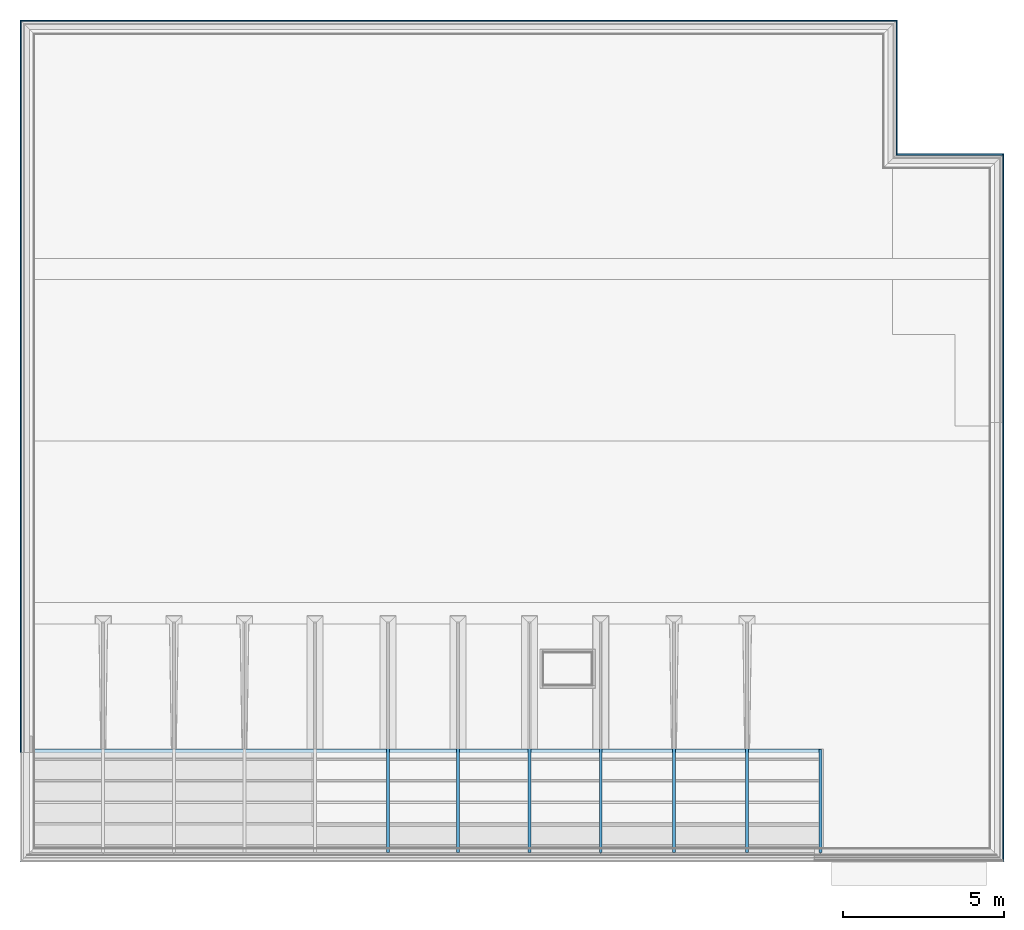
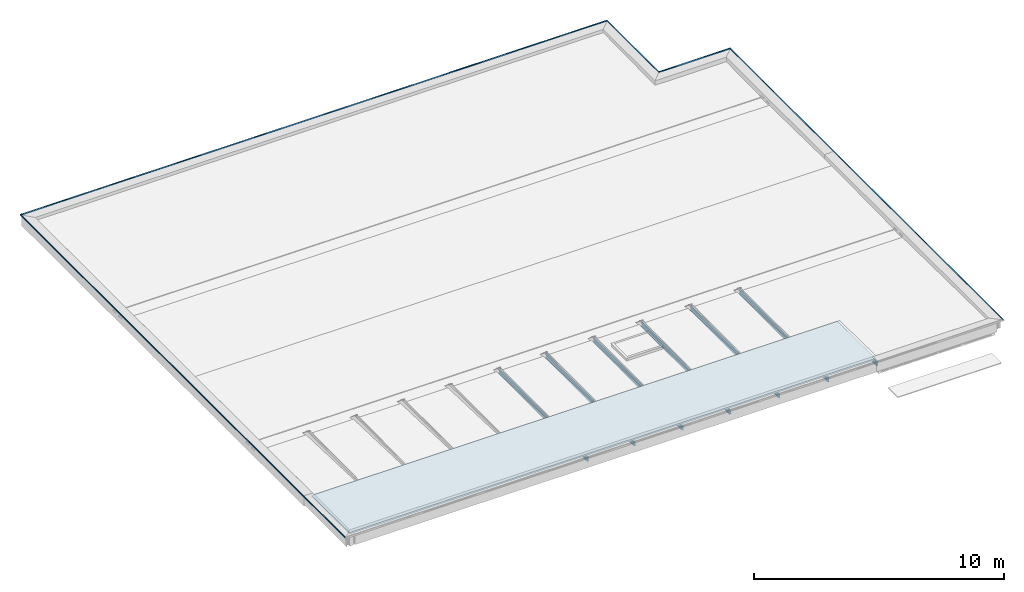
# One storey, part 4 of 16: 12 beams, 1 slab.
"""IFC2X3 building model written with IfcOpenShell, lengths in millimetres."""

import ifcopenshell
import ifcopenshell.guid

model = None  # the IFC model being written
_history = None  # IfcOwnerHistory: only IFC2X3 demands one
_inside = {}  # id of a spatial element -> (the spatial element, [elements in it])
_under = {}  # id of a project, library or spatial element -> (it, [spatial elements below it])
_declared = {}  # id of a project -> (the project, [libraries it declares])
_typed = {}  # id of a type object -> (the type object, [elements of that type])
_made_of = {}  # id of a material, layer set ... -> (it, [elements and type objects made of it])


def new_model(schema):
    """Start an empty IFC model of exactly this schema.

    Asked for "IFC4X3", IfcOpenShell would pick the latest addendum, in which some entities
    have other attributes; the version numbers below select the first issue.
    IFC2X3 requires an IfcOwnerHistory on every rooted entity: one is made here for all.
    """
    global model, _history
    if schema == "IFC4X3":
        model = ifcopenshell.file(schema_version=(4, 3, 0, 0))
    else:
        model = ifcopenshell.file(schema=schema)
    _inside.clear()
    _under.clear()
    _declared.clear()
    _typed.clear()
    _made_of.clear()
    _history = None
    if model.schema == "IFC2X3":
        org = make("IfcOrganization", Name="unknown")
        user = make(
            "IfcPersonAndOrganization",
            ThePerson=make("IfcPerson", FamilyName="unknown"),
            TheOrganization=org,
        )
        app = make(
            "IfcApplication",
            ApplicationDeveloper=org,
            Version="unknown",
            ApplicationFullName="unknown",
            ApplicationIdentifier="unknown",
        )
        _history = make(
            "IfcOwnerHistory",
            OwningUser=user,
            OwningApplication=app,
            ChangeAction="ADDED",
            CreationDate=0,
        )
    return model


def make(cls, **values):
    """One entity of the class cls with the attributes given. An attribute that is None is left unset."""
    return model.create_entity(
        cls, **{name: value for name, value in values.items() if value is not None}
    )


def entity(cls, *values):
    """Any entity or typed value of the class cls, its attributes in the order of the schema. None: left unset."""
    e = model.create_entity(cls)
    for i, value in enumerate(values):
        if value is not None:
            e[i] = value
    return e


def rooted(cls, **values):
    """An entity with a GlobalId (a new one), such as an element, a storey or a relation."""
    return make(cls, GlobalId=ifcopenshell.guid.new(), OwnerHistory=_history, **values)


def si_unit(unit_type, name, prefix=None):
    """IfcSIUnit, for example si_unit("LENGTHUNIT", "METRE", prefix="MILLI")."""
    return make("IfcSIUnit", UnitType=unit_type, Prefix=prefix, Name=name)


def converted_unit(unit_type, name, factor, base, dimensions=None, offset=None):
    """IfcConversionBasedUnit, such as the inch: factor (a typed value) times the base unit."""
    return make(
        "IfcConversionBasedUnit"
        if offset is None
        else "IfcConversionBasedUnitWithOffset",
        ConversionOffset=offset,
        Dimensions=None
        if dimensions is None
        else entity("IfcDimensionalExponents", *dimensions),
        UnitType=unit_type,
        Name=name,
        ConversionFactor=make(
            "IfcMeasureWithUnit", ValueComponent=factor, UnitComponent=base
        ),
    )


def derived_unit(unit_type, elements):
    """IfcDerivedUnit: a product of units, each with its exponent."""
    return make(
        "IfcDerivedUnit",
        Elements=[
            make("IfcDerivedUnitElement", Unit=unit, Exponent=power)
            for unit, power in elements
        ],
        UnitType=unit_type,
    )


def money_unit(currency):
    """IfcMonetaryUnit."""
    return make("IfcMonetaryUnit", Currency=currency)


def assignment(units):
    """IfcUnitAssignment: the units of a project."""
    return None if units is None else make("IfcUnitAssignment", Units=units)


def point(xyz):
    """IfcCartesianPoint."""
    return None if xyz is None else make("IfcCartesianPoint", Coordinates=xyz)


def direction(xyz):
    """IfcDirection."""
    return None if xyz is None else make("IfcDirection", DirectionRatios=xyz)


def frame(location, z_axis=None, x_axis=None):
    """IfcAxis2Placement3D, a coordinate frame: its origin and axes. An axis left out is left unset."""
    return make(
        "IfcAxis2Placement3D",
        Location=point(location),
        Axis=direction(z_axis),
        RefDirection=direction(x_axis),
    )


def origin_with_axes():
    """The frame at (0, 0, 0) with the z axis (0, 0, 1) and the x axis (1, 0, 0) written out."""
    return frame((0.0, 0.0, 0.0), z_axis=(0.0, 0.0, 1.0), x_axis=(1.0, 0.0, 0.0))


def place(relative_to, where):
    """IfcLocalPlacement: puts the frame where relative to a parent placement (None: the world)."""
    return make(
        "IfcLocalPlacement", PlacementRelTo=relative_to, RelativePlacement=where
    )


def context(
    kind, dimensions, precision=None, world=None, true_north=None, identifier=None
):
    """IfcGeometricRepresentationContext, for example the 3D "Model" context."""
    return make(
        "IfcGeometricRepresentationContext",
        ContextIdentifier=identifier,
        ContextType=kind,
        CoordinateSpaceDimension=dimensions,
        Precision=precision,
        WorldCoordinateSystem=world,
        TrueNorth=true_north,
    )


def subcontext(parent, identifier, kind, view, scale=None):
    """IfcGeometricRepresentationSubContext, for example "Body" below "Model"."""
    return make(
        "IfcGeometricRepresentationSubContext",
        ContextIdentifier=identifier,
        ContextType=kind,
        ParentContext=parent,
        TargetScale=scale,
        TargetView=view,
    )


def project(units=None, contexts=None):
    """IfcProject with its units and contexts."""
    return rooted(
        "IfcProject",
        Name="project",
        RepresentationContexts=contexts,
        UnitsInContext=assignment(units),
    )


def spatial(cls, under=None, at=None, **own):
    """A site, building, storey or space (cls), placed at a placement, below another one or the project."""
    s = rooted(cls, ObjectPlacement=at, **own)
    if under is not None:
        _under.setdefault(under.id(), (under, []))[1].append(s)
    return s


def faces_of(points, faces, orient=None, outer=None):
    """IfcFace entities. A face is a list of loops; a loop is a list of indices into points, from 0.

    orient and outer hold one flag for each loop. By default every Orientation is true, the
    first loop of a face is its IfcFaceOuterBound and the others are IfcFaceBound.
    """
    made = []
    for i, loops in enumerate(faces):
        bounds = []
        for j, loop in enumerate(loops):
            is_outer = j == 0 if outer is None else outer[i][j]
            bounds.append(
                make(
                    "IfcFaceOuterBound" if is_outer else "IfcFaceBound",
                    Bound=make("IfcPolyLoop", Polygon=[points[k] for k in loop]),
                    Orientation=True if orient is None else orient[i][j],
                )
            )
        made.append(make("IfcFace", Bounds=bounds))
    return made


def faceted_brep(points, faces, orient=None, outer=None, voids=None):
    """IfcFacetedBrep: a solid bounded by flat faces; with voids (closed shells), ...WithVoids."""
    shared = [point(p) for p in points]
    hull = make("IfcClosedShell", CfsFaces=faces_of(shared, faces, orient, outer))
    if voids is None:
        return make("IfcFacetedBrep", Outer=hull)
    return make(
        "IfcFacetedBrepWithVoids",
        Outer=hull,
        Voids=[
            make(cls, CfsFaces=faces_of(shared, fs, o, b)) for cls, fs, o, b in voids
        ],
    )


def shape(context_of_items, identifier, shape_type, items):
    """IfcShapeRepresentation: the items that make up one representation, for example the "Body"."""
    return make(
        "IfcShapeRepresentation",
        ContextOfItems=context_of_items,
        RepresentationIdentifier=identifier,
        RepresentationType=shape_type,
        Items=items,
    )


def material(Name=None, Category=None):
    """IfcMaterial."""
    return make("IfcMaterial", Name=Name, Category=Category)


def made_of(thing, what):
    """Note that an element or type object is made of a material, layer set ...; save() writes the relation."""
    if what is not None:
        _made_of.setdefault(what.id(), (what, []))[1].append(thing)
    return thing


def type_object(cls, material=None, **own):
    """A type object (cls), such as IfcWallType, which elements share."""
    return made_of(rooted(cls, **own), material)


def element(
    cls,
    number,
    at=None,
    inside=None,
    cuts=None,
    type_object=None,
    material=None,
    context=None,
    identifier="Body",
    shape_type=None,
    held_by="IfcProductDefinitionShape",
    body=None,
    shapes=None,
    **own,
):
    """One element of the class cls, such as IfcWall. Its Tag is "e" and its number.

    at: its placement. inside: the storey or other place that contains it. cuts: it is an
    opening in that element (IfcRelVoidsElement). A single representation is given by context,
    identifier, shape_type and body (its items); several are given by shapes. held_by: the class
    of the entity that holds the representations. save() writes the other relations.
    """
    e = rooted(cls, Tag="e%d" % number, ObjectPlacement=at, **own)
    if body is not None:
        shapes = [shape(context, identifier, shape_type, body)]
    if shapes is not None:
        e.Representation = make(held_by, Representations=shapes)
    if inside is not None:
        _inside.setdefault(inside.id(), (inside, []))[1].append(e)
    if cuts is not None:
        rooted(
            "IfcRelVoidsElement", RelatingBuildingElement=cuts, RelatedOpeningElement=e
        )
    if type_object is not None:
        _typed.setdefault(type_object.id(), (type_object, []))[1].append(e)
    return made_of(e, material)


def aggregate(whole, parts):
    """IfcRelAggregates: a whole, such as a stair, and the parts it consists of."""
    return rooted("IfcRelAggregates", RelatingObject=whole, RelatedObjects=parts)


def save(model, path):
    """Write the relations noted so far, then the file.

    IfcRelAggregates (storeys below a building ...), IfcRelContainedInSpatialStructure (elements
    in a storey), IfcRelDefinesByType, IfcRelAssociatesMaterial and IfcRelDeclares: one each for
    every whole, place, type object, material and project.
    """
    for whole, parts in _under.values():
        aggregate(whole, parts)
    for where, things in _inside.values():
        rooted(
            "IfcRelContainedInSpatialStructure",
            RelatedElements=things,
            RelatingStructure=where,
        )
    for kind, things in _typed.values():
        rooted("IfcRelDefinesByType", RelatedObjects=things, RelatingType=kind)
    for what, things in _made_of.values():
        rooted("IfcRelAssociatesMaterial", RelatedObjects=things, RelatingMaterial=what)
    for by, libraries in _declared.values():
        rooted("IfcRelDeclares", RelatingContext=by, RelatedDefinitions=libraries)
    model.write(path)


model = new_model("IFC2X3")

# Units and contexts
model_context = context("Model", 3, precision=0.01, world=origin_with_axes(), true_north=direction((0.0, 1.0)))
body_context = subcontext(model_context, "Body", "Model", "MODEL_VIEW")
ifc_project = project(units=[si_unit("LENGTHUNIT", "METRE", prefix="MILLI"), si_unit("AREAUNIT", "SQUARE_METRE"), si_unit("VOLUMEUNIT", "CUBIC_METRE"), converted_unit("PLANEANGLEUNIT", "DEGREE", entity("IfcPlaneAngleMeasure", 0.0174532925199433), si_unit("PLANEANGLEUNIT", "RADIAN"), dimensions=[0, 0, 0, 0, 0, 0, 0]), money_unit("EUR"), converted_unit("TIMEUNIT", "Year", entity("IfcTimeMeasure", 31556926.0), si_unit("TIMEUNIT", "SECOND"), dimensions=[0, 0, 1, 0, 0, 0, 0]), si_unit("MASSUNIT", "GRAM", prefix="KILO"), si_unit("THERMODYNAMICTEMPERATUREUNIT", "DEGREE_CELSIUS"), si_unit("LUMINOUSINTENSITYUNIT", "LUMEN"), si_unit("ENERGYUNIT", "JOULE", prefix="MEGA"), derived_unit("THERMALCONDUCTANCEUNIT", [(si_unit("POWERUNIT", "WATT"), 1), (si_unit("LENGTHUNIT", "METRE"), -1), (si_unit("THERMODYNAMICTEMPERATUREUNIT", "KELVIN"), -1)]), derived_unit("SPECIFICHEATCAPACITYUNIT", [(si_unit("ENERGYUNIT", "JOULE"), 1), (si_unit("MASSUNIT", "GRAM", prefix="KILO"), -1), (si_unit("THERMODYNAMICTEMPERATUREUNIT", "KELVIN"), -1)]), derived_unit("MASSDENSITYUNIT", [(si_unit("MASSUNIT", "GRAM", prefix="KILO"), 1), (si_unit("VOLUMEUNIT", "CUBIC_METRE"), -1)])], contexts=[model_context])

# Site, building, storey
site_placement = place(None, origin_with_axes())
site = spatial("IfcSite", under=ifc_project, at=site_placement, Name="Site", CompositionType="ELEMENT")
building_placement = place(site_placement, origin_with_axes())
building = spatial("IfcBuilding", under=site, at=building_placement, Name="Naam gebouw", CompositionType="ELEMENT")
storey_placement = place(building_placement, frame((0.0, 0.0, 7820.0), z_axis=(0.0, 0.0, 1.0), x_axis=(1.0, 0.0, 0.0)))
storey = spatial("IfcBuildingStorey", under=building, at=storey_placement, Name="2e dakoverzicht", CompositionType="ELEMENT", Elevation=7820.0)

# Beams
ifc_material_1 = material(Name="Metaal - Aluminium")
beam_type_1 = type_object("IfcBeamType", Name="47 Daktrim 45 x 45", PredefinedType="BEAM")
beam_1_placement = place(storey_placement, frame((-290.000000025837, 29465.0, 525.0000000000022), z_axis=(0.0, 0.0, 1.0), x_axis=(0.0, -1.0, 0.0)))
element("IfcBeam", 1, at=beam_1_placement, inside=storey, type_object=beam_type_1, material=ifc_material_1, Name="28_Balk-x", ObjectType="BEAM", context=body_context, shape_type="Brep", body=[
    faceted_brep([(0.0, 0.0, 0.0), (0.0, 27180.00000002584, 0.0), (0.0, 27180.00000002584, -44.99999999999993), (0.0, 0.0, -44.99999999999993), (10.00000000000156, 10.0000000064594, 0.0), (9.99999999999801, 27170.00000002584, 0.0), (9.99999999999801, 27170.00000002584, -3.000000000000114), (3.000000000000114, 27177.00000002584, -3.000000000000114), (3.000000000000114, 27177.00000002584, -13.51955345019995), (45.00010525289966, 27134.99989477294, -13.51955345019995), (45.00010525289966, 27134.99989477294, -16.51955345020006), (3.000000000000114, 27177.00000002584, -16.51955345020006), (3.000000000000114, 27177.00000002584, -41.99999999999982), (9.99999999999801, 27170.00000002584, -41.99999999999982), (9.99999999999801, 27170.00000002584, -44.99999999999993), (10.00000000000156, 10.0000000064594, -44.99999999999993), (10.00000000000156, 10.0000000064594, -41.99999999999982), (3.000000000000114, 3.00000000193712, -41.99999999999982), (3.000000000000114, 3.00000000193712, -16.51955345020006), (45.00010525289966, 45.00010528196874, -16.51955345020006), (45.00010525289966, 45.00010528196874, -13.51955345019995), (3.000000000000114, 3.00000000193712, -13.51955345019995), (3.000000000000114, 3.00000000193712, -3.000000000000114), (10.00000000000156, 10.0000000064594, -3.000000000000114)], [[[0, 1, 2, 3]], [[4, 5, 1, 0]], [[2, 1, 5, 6, 7, 8, 9, 10, 11, 12, 13, 14]], [[3, 2, 14, 15]], [[4, 0, 3, 15, 16, 17, 18, 19, 20, 21, 22, 23]], [[23, 6, 5, 4]], [[22, 7, 6, 23]], [[21, 8, 7, 22]], [[20, 9, 8, 21]], [[19, 10, 9, 20]], [[18, 11, 10, 19]], [[17, 12, 11, 18]], [[16, 13, 12, 17]], [[15, 14, 13, 16]]]),
])
beam_2_placement = place(storey_placement, frame((-289.9999831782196, 3384.000000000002, 525.0000000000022), z_axis=(0.0, 0.0, 1.0), x_axis=(1.0, 6.459728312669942e-10, 0.0)))
element("IfcBeam", 2, at=beam_2_placement, inside=storey, type_object=beam_type_1, material=ifc_material_1, Name="28_Balk-x", ObjectType="BEAM", context=body_context, shape_type="Brep", body=[
    faceted_brep([(0.0, 0.0, 0.0), (0.0, 26080.99999999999, 0.0), (0.0, 26080.99999999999, -44.99999999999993), (0.0, 0.0, -44.99999999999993), (10.00000000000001, 9.999999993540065, 0.0), (10.00000000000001, 26070.99999999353, 0.0), (10.00000000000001, 26070.99999999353, -3.000000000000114), (3.000000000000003, 26077.99999999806, -3.000000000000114), (3.000000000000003, 26077.99999999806, -13.51955345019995), (45.00010525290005, 26035.99989471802, -13.51955345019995), (45.00010525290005, 26035.99989471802, -16.51955345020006), (3.000000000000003, 26077.99999999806, -16.51955345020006), (3.000000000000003, 26077.99999999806, -41.99999999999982), (10.00000000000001, 26070.99999999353, -41.99999999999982), (10.00000000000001, 26070.99999999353, -44.99999999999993), (10.00000000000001, 9.999999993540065, -44.99999999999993), (10.00000000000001, 9.999999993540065, -41.99999999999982), (3.000000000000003, 2.999999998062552, -41.99999999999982), (3.000000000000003, 2.999999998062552, -16.51955345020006), (45.00010525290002, 45.00010522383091, -16.51955345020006), (45.00010525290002, 45.00010522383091, -13.51955345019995), (3.000000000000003, 2.999999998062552, -13.51955345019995), (3.000000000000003, 2.999999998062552, -3.000000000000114), (10.00000000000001, 9.999999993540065, -3.000000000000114)], [[[0, 1, 2, 3]], [[4, 5, 1, 0]], [[2, 1, 5, 6, 7, 8, 9, 10, 11, 12, 13, 14]], [[3, 2, 14, 15]], [[4, 0, 3, 15, 16, 17, 18, 19, 20, 21, 22, 23]], [[23, 6, 5, 4]], [[22, 7, 6, 23]], [[21, 8, 7, 22]], [[20, 9, 8, 21]], [[19, 10, 9, 20]], [[18, 11, 10, 19]], [[17, 12, 11, 18]], [[16, 13, 12, 17]], [[15, 14, 13, 16]]]),
])
beam_3_placement = place(storey_placement, frame((30189.99999999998, 25314.97621976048, 525.0000000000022), z_axis=(0.0, 0.0, 1.0), x_axis=(-1.0, 0.0, 0.0)))
element("IfcBeam", 3, at=beam_3_placement, inside=storey, type_object=beam_type_1, material=ifc_material_1, Name="28_Balk-x", ObjectType="BEAM", context=body_context, shape_type="Brep", body=[
    faceted_brep([(0.0, 0.0, 0.0), (0.0, 21930.97621976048, 0.0), (0.0, 21930.97621976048, -44.99999999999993), (0.0, 0.0, -44.99999999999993), (10.00000000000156, 10.00000000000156, 0.0), (10.00000000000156, 21920.97621976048, 0.0), (10.00000000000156, 21920.97621976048, -3.000000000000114), (3.000000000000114, 21927.97621976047, -3.000000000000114), (3.000000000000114, 21927.97621976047, -13.51955345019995), (45.00010525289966, 21885.97611450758, -13.51955345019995), (45.00010525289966, 21885.97611450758, -16.51955345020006), (3.000000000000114, 21927.97621976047, -16.51955345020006), (3.000000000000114, 21927.97621976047, -41.99999999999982), (10.00000000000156, 21920.97621976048, -41.99999999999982), (10.00000000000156, 21920.97621976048, -44.99999999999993), (10.00000000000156, 10.00000000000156, -44.99999999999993), (10.00000000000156, 10.00000000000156, -41.99999999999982), (3.000000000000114, 3.000000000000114, -41.99999999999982), (3.000000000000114, 3.000000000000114, -16.51955345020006), (45.00010525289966, 45.00010525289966, -16.51955345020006), (45.00010525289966, 45.00010525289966, -13.51955345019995), (3.000000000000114, 3.000000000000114, -13.51955345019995), (3.000000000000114, 3.000000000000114, -3.000000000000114), (10.00000000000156, 10.00000000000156, -3.000000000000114)], [[[0, 1, 2, 3]], [[4, 5, 1, 0]], [[2, 1, 5, 6, 7, 8, 9, 10, 11, 12, 13, 14]], [[3, 2, 14, 15]], [[4, 0, 3, 15, 16, 17, 18, 19, 20, 21, 22, 23]], [[23, 6, 5, 4]], [[22, 7, 6, 23]], [[21, 8, 7, 22]], [[20, 9, 8, 21]], [[19, 10, 9, 20]], [[18, 11, 10, 19]], [[17, 12, 11, 18]], [[16, 13, 12, 17]], [[15, 14, 13, 16]]]),
])
beam_4_placement = place(storey_placement, frame((26890.0, 25314.97621976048, 525.0000000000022), z_axis=(0.0, 0.0, 1.0), x_axis=(0.0, -1.0, 0.0)))
element("IfcBeam", 4, at=beam_4_placement, inside=storey, type_object=beam_type_1, material=ifc_material_1, Name="28_Balk-x", ObjectType="BEAM", context=body_context, shape_type="Brep", body=[
    faceted_brep([(0.0, 0.0, 0.0), (0.0, 3299.99999999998, 0.0), (0.0, 3299.99999999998, -44.99999999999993), (0.0, 0.0, -44.99999999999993), (10.00000000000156, -10.00000000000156, 0.0), (10.00000000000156, 3289.999999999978, 0.0), (10.00000000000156, 3289.999999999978, -3.000000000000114), (3.000000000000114, 3296.999999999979, -3.000000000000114), (3.000000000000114, 3296.999999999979, -13.51955345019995), (45.00010525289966, 3254.99989474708, -13.51955345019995), (45.00010525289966, 3254.99989474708, -16.51955345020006), (3.000000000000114, 3296.999999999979, -16.51955345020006), (3.000000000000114, 3296.999999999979, -41.99999999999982), (10.00000000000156, 3289.999999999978, -41.99999999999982), (10.00000000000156, 3289.999999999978, -44.99999999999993), (10.00000000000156, -10.00000000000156, -44.99999999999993), (10.00000000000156, -10.00000000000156, -41.99999999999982), (3.000000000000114, -3.000000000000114, -41.99999999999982), (3.000000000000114, -3.000000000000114, -16.51955345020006), (45.00010525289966, -45.00010525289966, -16.51955345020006), (45.00010525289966, -45.00010525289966, -13.51955345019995), (3.000000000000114, -3.000000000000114, -13.51955345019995), (3.000000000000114, -3.000000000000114, -3.000000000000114), (10.00000000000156, -10.00000000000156, -3.000000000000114)], [[[0, 1, 2, 3]], [[4, 5, 1, 0]], [[2, 1, 5, 6, 7, 8, 9, 10, 11, 12, 13, 14]], [[3, 2, 14, 15]], [[4, 0, 3, 15, 16, 17, 18, 19, 20, 21, 22, 23]], [[23, 6, 5, 4]], [[22, 7, 6, 23]], [[21, 8, 7, 22]], [[20, 9, 8, 21]], [[19, 10, 9, 20]], [[18, 11, 10, 19]], [[17, 12, 11, 18]], [[16, 13, 12, 17]], [[15, 14, 13, 16]]]),
])
beam_5_placement = place(storey_placement, frame((26890.0, 29465.0, 525.0000000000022), z_axis=(0.0, 0.0, 1.0), x_axis=(-1.0, 0.0, 0.0)))
element("IfcBeam", 5, at=beam_5_placement, inside=storey, type_object=beam_type_1, material=ifc_material_1, Name="28_Balk-x", ObjectType="BEAM", context=body_context, shape_type="Brep", body=[
    faceted_brep([(0.0, 0.0, 0.0), (0.0, 4150.023780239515, 0.0), (0.0, 4150.023780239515, -44.99999999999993), (0.0, 0.0, -44.99999999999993), (10.00000000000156, 10.00000000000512, 0.0), (9.99999999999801, 4160.023780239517, 0.0), (9.99999999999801, 4160.023780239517, -3.000000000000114), (3.000000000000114, 4153.023780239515, -3.000000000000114), (3.000000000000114, 4153.023780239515, -13.51955345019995), (45.00010525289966, 4195.023885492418, -13.51955345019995), (45.00010525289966, 4195.023885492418, -16.51955345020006), (3.000000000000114, 4153.023780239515, -16.51955345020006), (3.000000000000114, 4153.023780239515, -41.99999999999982), (9.99999999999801, 4160.023780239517, -41.99999999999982), (9.99999999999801, 4160.023780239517, -44.99999999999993), (10.00000000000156, 10.00000000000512, -44.99999999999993), (10.00000000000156, 10.00000000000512, -41.99999999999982), (3.000000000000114, 3.000000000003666, -41.99999999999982), (3.000000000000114, 3.000000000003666, -16.51955345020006), (45.00010525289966, 45.00010525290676, -16.51955345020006), (45.00010525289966, 45.00010525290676, -13.51955345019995), (3.000000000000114, 3.000000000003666, -13.51955345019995), (3.000000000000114, 3.000000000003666, -3.000000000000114), (10.00000000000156, 10.00000000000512, -3.000000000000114)], [[[0, 1, 2, 3]], [[4, 5, 1, 0]], [[2, 1, 5, 6, 7, 8, 9, 10, 11, 12, 13, 14]], [[3, 2, 14, 15]], [[4, 0, 3, 15, 16, 17, 18, 19, 20, 21, 22, 23]], [[23, 6, 5, 4]], [[22, 7, 6, 23]], [[21, 8, 7, 22]], [[20, 9, 8, 21]], [[19, 10, 9, 20]], [[18, 11, 10, 19]], [[17, 12, 11, 18]], [[16, 13, 12, 17]], [[15, 14, 13, 16]]]),
])
ifc_material_2 = material(Name="Metaal - Staal C")
beam_type_2 = type_object("IfcBeamType", Name="IPE180 91 x 180", PredefinedType="BEAM")
beam_6_placement = place(storey_placement, frame((24499.99903999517, 3614.999999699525, 179.9999999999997), z_axis=(0.0, 0.0, 1.0), x_axis=(1.0, 0.0, 0.0)))
element("IfcBeam", 6, at=beam_6_placement, inside=storey, type_object=beam_type_2, material=ifc_material_2, Name="h METAAL_Regenwaterafvoer-x", ObjectType="BEAM", context=body_context, shape_type="Brep", body=[
    faceted_brep([(-45.50000000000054, 3255.000000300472, 89.99999999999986), (-45.50000000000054, 70.00000000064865, 89.99999999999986), (45.50000000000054, 70.00000000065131, 89.99999999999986), (45.50000000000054, 3255.000000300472, 89.99999999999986), (-45.50000000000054, 3255.000000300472, 82.00000000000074), (-45.50000000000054, 70.00000000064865, 82.00000000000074), (2.649999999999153, 70.00000000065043, 82.00000000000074), (45.50000000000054, 70.00000000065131, 82.00000000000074), (-2.649999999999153, 70.00000000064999, 82.00000000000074), (-2.649999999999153, 70.00000000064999, 79.00000000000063), (2.649999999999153, 70.00000000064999, 79.00000000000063), (45.50000000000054, 3255.000000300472, 82.00000000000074), (-2.649999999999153, 3255.000000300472, -81.99999999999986), (-2.649999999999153, 3255.000000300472, 82.00000000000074), (2.649999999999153, 3255.000000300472, 82.00000000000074), (2.649999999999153, 3255.000000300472, -81.99999999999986), (45.50000000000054, 3255.000000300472, -81.99999999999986), (45.50000000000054, 3255.000000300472, -89.99999999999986), (-45.50000000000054, 3255.000000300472, -89.99999999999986), (-45.50000000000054, 3255.000000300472, -81.99999999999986), (-2.649999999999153, 8.00000000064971, 79.00000000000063), (-2.649999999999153, 70.00000000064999, -81.99999999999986), (-2.649999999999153, 70.00000000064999, -78.99999999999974), (-2.649999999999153, 8.00000000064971, -78.99999999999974), (2.649999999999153, 8.00000000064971, 79.00000000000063), (2.649999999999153, 8.00000000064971, -78.99999999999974), (2.649999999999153, 70.00000000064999, -78.99999999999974), (2.649999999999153, 70.00000000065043, -81.99999999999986), (45.50000000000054, 70.00000000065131, -81.99999999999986), (45.50000000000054, 70.00000000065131, -89.99999999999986), (-45.50000000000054, 70.00000000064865, -89.99999999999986), (-45.50000000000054, 70.00000000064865, -81.99999999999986)], [[[0, 1, 2, 3]], [[4, 5, 1, 0]], [[6, 7, 2, 1, 5, 8, 9, 10]], [[3, 2, 7, 11]], [[12, 13, 4, 0, 3, 11, 14, 15, 16, 17, 18, 19]], [[13, 8, 5, 4]], [[11, 7, 6, 14]], [[20, 9, 8, 13, 12, 21, 22, 23]], [[20, 24, 10, 9]], [[25, 26, 27, 15, 14, 6, 10, 24]], [[15, 27, 28, 16]], [[16, 28, 29, 17]], [[17, 29, 30, 18]], [[18, 30, 31, 19]], [[19, 31, 21, 12]], [[30, 29, 28, 27, 26, 22, 21, 31]], [[22, 26, 25, 23]], [[23, 25, 24, 20]]]),
])
beam_7_placement = place(storey_placement, frame((22233.33250152, 3614.999999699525, 179.9999999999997), z_axis=(0.0, 0.0, 1.0), x_axis=(1.0, 0.0, 0.0)))
element("IfcBeam", 7, at=beam_7_placement, inside=storey, type_object=beam_type_2, material=ifc_material_2, Name="h METAAL_Regenwaterafvoer-x", ObjectType="BEAM", context=body_context, shape_type="Brep", body=[
    faceted_brep([(-45.50000000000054, 7195.000055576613, 89.99999999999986), (-45.50000000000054, 70.0000000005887, 89.99999999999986), (45.50000000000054, 70.00000000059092, 89.99999999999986), (45.50000000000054, 7195.000055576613, 89.99999999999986), (-45.50000000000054, 7195.000055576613, 82.00000000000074), (-45.50000000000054, 70.00000000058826, 82.00000000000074), (2.649999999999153, 70.00000000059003, 82.00000000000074), (45.50000000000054, 70.00000000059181, 82.00000000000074), (-2.649999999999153, 70.00000000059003, 82.00000000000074), (-2.649999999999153, 70.0000000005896, 79.00000000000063), (2.649999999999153, 70.00000000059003, 79.00000000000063), (45.50000000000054, 7195.000055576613, 82.00000000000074), (-2.649999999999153, 7195.000055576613, -81.99999999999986), (-2.649999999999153, 7195.000055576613, 82.00000000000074), (2.649999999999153, 7195.000055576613, 82.00000000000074), (2.649999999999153, 7195.000055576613, -81.99999999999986), (45.50000000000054, 7195.000055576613, -81.99999999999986), (45.50000000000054, 7195.000055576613, -89.99999999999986), (-45.50000000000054, 7195.000055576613, -89.99999999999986), (-45.50000000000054, 7195.000055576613, -81.99999999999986), (-2.649999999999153, 8.000000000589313, 79.00000000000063), (-2.649999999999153, 70.00000000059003, -81.99999999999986), (-2.649999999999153, 70.0000000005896, -78.99999999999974), (-2.649999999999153, 8.000000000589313, -78.99999999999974), (2.649999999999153, 8.000000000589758, 79.00000000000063), (2.649999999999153, 8.000000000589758, -78.99999999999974), (2.649999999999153, 70.00000000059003, -78.99999999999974), (2.649999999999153, 70.00000000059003, -81.99999999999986), (45.50000000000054, 70.00000000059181, -81.99999999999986), (45.49999999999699, 70.00000000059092, -89.99999999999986), (-45.5000000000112, 70.0000000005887, -89.99999999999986), (-45.50000000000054, 70.00000000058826, -81.99999999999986)], [[[0, 1, 2, 3]], [[4, 5, 1, 0]], [[6, 7, 2, 1, 5, 8, 9, 10]], [[3, 2, 7, 11]], [[12, 13, 4, 0, 3, 11, 14, 15, 16, 17, 18, 19]], [[13, 8, 5, 4]], [[11, 7, 6, 14]], [[20, 9, 8, 13, 12, 21, 22, 23]], [[20, 24, 10, 9]], [[25, 26, 27, 15, 14, 6, 10, 24]], [[15, 27, 28, 16]], [[16, 28, 29, 17]], [[17, 29, 30, 18]], [[18, 30, 31, 19]], [[19, 31, 21, 12]], [[30, 29, 28, 27, 26, 22, 21, 31]], [[22, 26, 25, 23]], [[23, 25, 24, 20]]]),
])
beam_8_placement = place(storey_placement, frame((19966.6659630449, 3614.999999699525, 179.9999999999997), z_axis=(0.0, 0.0, 1.0), x_axis=(1.0, 0.0, 0.0)))
element("IfcBeam", 8, at=beam_8_placement, inside=storey, type_object=beam_type_2, material=ifc_material_2, Name="h METAAL_Regenwaterafvoer-x", ObjectType="BEAM", context=body_context, shape_type="Brep", body=[
    faceted_brep([(-45.50000000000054, 7195.000055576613, 89.99999999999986), (-45.50000000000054, 70.00000000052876, 89.99999999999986), (45.50000000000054, 70.00000000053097, 89.99999999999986), (45.50000000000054, 7195.000055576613, 89.99999999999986), (-45.50000000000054, 7195.000055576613, 82.00000000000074), (-45.50000000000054, 70.00000000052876, 82.00000000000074), (2.649999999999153, 70.00000000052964, 82.00000000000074), (45.50000000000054, 70.00000000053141, 82.00000000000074), (-2.649999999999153, 70.00000000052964, 82.00000000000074), (-2.649999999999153, 70.00000000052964, 79.00000000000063), (2.649999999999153, 70.00000000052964, 79.00000000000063), (45.50000000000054, 7195.000055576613, 82.00000000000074), (-2.649999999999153, 7195.000055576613, -81.99999999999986), (-2.649999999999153, 7195.000055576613, 82.00000000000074), (2.649999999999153, 7195.000055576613, 82.00000000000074), (2.649999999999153, 7195.000055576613, -81.99999999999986), (45.50000000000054, 7195.000055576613, -81.99999999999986), (45.50000000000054, 7195.000055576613, -89.99999999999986), (-45.50000000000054, 7195.000055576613, -89.99999999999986), (-45.50000000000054, 7195.000055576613, -81.99999999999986), (-2.649999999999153, 8.000000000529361, 79.00000000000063), (-2.649999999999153, 70.00000000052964, -81.99999999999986), (-2.649999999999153, 70.00000000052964, -78.99999999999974), (-2.649999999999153, 8.000000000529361, -78.99999999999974), (2.649999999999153, 8.000000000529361, 79.00000000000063), (2.649999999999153, 8.000000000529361, -78.99999999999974), (2.649999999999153, 70.00000000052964, -78.99999999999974), (2.649999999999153, 70.00000000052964, -81.99999999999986), (45.50000000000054, 70.00000000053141, -81.99999999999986), (45.49999999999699, 70.00000000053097, -89.99999999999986), (-45.50000000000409, 70.00000000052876, -89.99999999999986), (-45.50000000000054, 70.00000000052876, -81.99999999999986)], [[[0, 1, 2, 3]], [[4, 5, 1, 0]], [[6, 7, 2, 1, 5, 8, 9, 10]], [[3, 2, 7, 11]], [[12, 13, 4, 0, 3, 11, 14, 15, 16, 17, 18, 19]], [[13, 8, 5, 4]], [[11, 7, 6, 14]], [[20, 9, 8, 13, 12, 21, 22, 23]], [[20, 24, 10, 9]], [[25, 26, 27, 15, 14, 6, 10, 24]], [[15, 27, 28, 16]], [[16, 28, 29, 17]], [[17, 29, 30, 18]], [[18, 30, 31, 19]], [[19, 31, 21, 12]], [[30, 29, 28, 27, 26, 22, 21, 31]], [[22, 26, 25, 23]], [[23, 25, 24, 20]]]),
])
beam_9_placement = place(storey_placement, frame((17699.9994245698, 3614.999999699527, 179.9999999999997), z_axis=(0.0, 0.0, 1.0), x_axis=(1.0, 0.0, 0.0)))
element("IfcBeam", 9, at=beam_9_placement, inside=storey, type_object=beam_type_2, material=ifc_material_2, Name="h METAAL_Regenwaterafvoer-x", ObjectType="BEAM", context=body_context, shape_type="Brep", body=[
    faceted_brep([(-45.50000000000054, 7195.000055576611, 89.99999999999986), (-45.50000000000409, 70.00000000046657, 89.99999999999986), (45.50000000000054, 70.0000000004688, 89.99999999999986), (45.50000000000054, 7195.000055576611, 89.99999999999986), (-45.50000000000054, 7195.000055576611, 82.00000000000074), (-45.50000000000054, 70.00000000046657, 82.00000000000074), (2.649999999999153, 70.00000000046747, 82.00000000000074), (45.50000000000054, 70.00000000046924, 82.00000000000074), (-2.649999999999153, 70.00000000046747, 82.00000000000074), (-2.649999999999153, 70.0000000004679, 79.00000000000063), (2.649999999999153, 70.0000000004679, 79.00000000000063), (45.50000000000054, 7195.000055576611, 82.00000000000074), (-2.649999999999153, 7195.000055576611, -81.99999999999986), (-2.649999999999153, 7195.000055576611, 82.00000000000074), (2.649999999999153, 7195.000055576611, 82.00000000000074), (2.649999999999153, 7195.000055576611, -81.99999999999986), (45.50000000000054, 7195.000055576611, -81.99999999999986), (45.50000000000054, 7195.000055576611, -89.99999999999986), (-45.50000000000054, 7195.000055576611, -89.99999999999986), (-45.50000000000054, 7195.000055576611, -81.99999999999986), (-2.6499999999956, 8.000000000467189, 79.00000000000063), (-2.649999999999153, 70.00000000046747, -81.99999999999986), (-2.649999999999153, 70.0000000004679, -78.99999999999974), (-2.6499999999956, 8.000000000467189, -78.99999999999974), (2.649999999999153, 8.000000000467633, 79.00000000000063), (2.649999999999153, 8.000000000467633, -78.99999999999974), (2.649999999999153, 70.0000000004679, -78.99999999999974), (2.649999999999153, 70.00000000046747, -81.99999999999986), (45.50000000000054, 70.00000000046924, -81.99999999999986), (45.49999999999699, 70.0000000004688, -89.99999999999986), (-45.50000000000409, 70.00000000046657, -89.99999999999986), (-45.50000000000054, 70.00000000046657, -81.99999999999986)], [[[0, 1, 2, 3]], [[4, 5, 1, 0]], [[6, 7, 2, 1, 5, 8, 9, 10]], [[3, 2, 7, 11]], [[12, 13, 4, 0, 3, 11, 14, 15, 16, 17, 18, 19]], [[13, 8, 5, 4]], [[11, 7, 6, 14]], [[20, 9, 8, 13, 12, 21, 22, 23]], [[20, 24, 10, 9]], [[25, 26, 27, 15, 14, 6, 10, 24]], [[15, 27, 28, 16]], [[16, 28, 29, 17]], [[17, 29, 30, 18]], [[18, 30, 31, 19]], [[19, 31, 21, 12]], [[30, 29, 28, 27, 26, 22, 21, 31]], [[22, 26, 25, 23]], [[23, 25, 24, 20]]]),
])
beam_10_placement = place(storey_placement, frame((15487.49956842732, 3614.999999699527, 179.9999999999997), z_axis=(0.0, 0.0, 1.0), x_axis=(1.0, 0.0, 0.0)))
element("IfcBeam", 10, at=beam_10_placement, inside=storey, type_object=beam_type_2, material=ifc_material_2, Name="h METAAL_Regenwaterafvoer-x", ObjectType="BEAM", context=body_context, shape_type="Brep", body=[
    faceted_brep([(-45.50000000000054, 7195.000055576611, 89.99999999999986), (-45.49999999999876, 70.00000000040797, 89.99999999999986), (45.50000000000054, 70.00000000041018, 89.99999999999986), (45.50000000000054, 7195.000055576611, 89.99999999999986), (-45.50000000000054, 7195.000055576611, 82.00000000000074), (-45.50000000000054, 70.00000000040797, 82.00000000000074), (2.649999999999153, 70.00000000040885, 82.00000000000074), (45.50000000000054, 70.00000000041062, 82.00000000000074), (-2.649999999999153, 70.00000000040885, 82.00000000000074), (-2.649999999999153, 70.00000000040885, 79.00000000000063), (2.649999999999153, 70.00000000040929, 79.00000000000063), (45.50000000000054, 7195.000055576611, 82.00000000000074), (-2.649999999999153, 7195.000055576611, -81.99999999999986), (-2.649999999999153, 7195.000055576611, 82.00000000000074), (2.649999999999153, 7195.000055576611, 82.00000000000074), (2.649999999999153, 7195.000055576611, -81.99999999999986), (45.50000000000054, 7195.000055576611, -81.99999999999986), (45.50000000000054, 7195.000055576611, -89.99999999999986), (-45.50000000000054, 7195.000055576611, -89.99999999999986), (-45.50000000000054, 7195.000055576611, -81.99999999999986), (-2.649999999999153, 8.00000000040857, 79.00000000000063), (-2.649999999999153, 70.00000000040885, -81.99999999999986), (-2.649999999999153, 70.00000000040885, -78.99999999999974), (-2.649999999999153, 8.00000000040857, -78.99999999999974), (2.649999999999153, 8.000000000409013, 79.00000000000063), (2.649999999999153, 8.000000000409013, -78.99999999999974), (2.649999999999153, 70.00000000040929, -78.99999999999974), (2.649999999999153, 70.00000000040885, -81.99999999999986), (45.50000000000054, 70.00000000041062, -81.99999999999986), (45.50000000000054, 70.00000000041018, -89.99999999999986), (-45.50000000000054, 70.00000000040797, -89.99999999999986), (-45.50000000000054, 70.00000000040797, -81.99999999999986)], [[[0, 1, 2, 3]], [[4, 5, 1, 0]], [[6, 7, 2, 1, 5, 8, 9, 10]], [[3, 2, 7, 11]], [[12, 13, 4, 0, 3, 11, 14, 15, 16, 17, 18, 19]], [[13, 8, 5, 4]], [[11, 7, 6, 14]], [[20, 9, 8, 13, 12, 21, 22, 23]], [[20, 24, 10, 9]], [[25, 26, 27, 15, 14, 6, 10, 24]], [[15, 27, 28, 16]], [[16, 28, 29, 17]], [[17, 29, 30, 18]], [[18, 30, 31, 19]], [[19, 31, 21, 12]], [[30, 29, 28, 27, 26, 22, 21, 31]], [[22, 26, 25, 23]], [[23, 25, 24, 20]]]),
])
beam_11_placement = place(storey_placement, frame((13274.99971228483, 3614.999999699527, 179.9999999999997), z_axis=(0.0, 0.0, 1.0), x_axis=(1.0, 0.0, 0.0)))
element("IfcBeam", 11, at=beam_11_placement, inside=storey, type_object=beam_type_2, material=ifc_material_2, Name="h METAAL_Regenwaterafvoer-x", ObjectType="BEAM", context=body_context, shape_type="Brep", body=[
    faceted_brep([(-45.50000000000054, 7195.000055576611, 89.99999999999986), (-45.50000000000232, 70.00000000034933, 89.99999999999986), (45.50000000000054, 70.00000000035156, 89.99999999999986), (45.50000000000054, 7195.000055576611, 89.99999999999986), (-45.50000000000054, 7195.000055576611, 82.00000000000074), (-45.50000000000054, 70.00000000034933, 82.00000000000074), (2.649999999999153, 70.00000000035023, 82.00000000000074), (45.50000000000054, 70.000000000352, 82.00000000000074), (-2.649999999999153, 70.00000000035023, 82.00000000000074), (-2.649999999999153, 70.00000000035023, 79.00000000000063), (2.649999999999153, 70.00000000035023, 79.00000000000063), (45.50000000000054, 7195.000055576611, 82.00000000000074), (-2.649999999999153, 7195.000055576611, -81.99999999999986), (-2.649999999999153, 7195.000055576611, 82.00000000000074), (2.649999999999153, 7195.000055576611, 82.00000000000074), (2.649999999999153, 7195.000055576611, -81.99999999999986), (45.50000000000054, 7195.000055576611, -81.99999999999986), (45.50000000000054, 7195.000055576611, -89.99999999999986), (-45.50000000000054, 7195.000055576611, -89.99999999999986), (-45.50000000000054, 7195.000055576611, -81.99999999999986), (-2.649999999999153, 8.00000000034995, 79.00000000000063), (-2.649999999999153, 70.00000000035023, -81.99999999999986), (-2.649999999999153, 70.00000000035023, -78.99999999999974), (-2.649999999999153, 8.00000000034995, -78.99999999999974), (2.649999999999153, 8.00000000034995, 79.00000000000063), (2.649999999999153, 8.00000000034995, -78.99999999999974), (2.649999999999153, 70.00000000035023, -78.99999999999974), (2.649999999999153, 70.00000000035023, -81.99999999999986), (45.50000000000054, 70.000000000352, -81.99999999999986), (45.50000000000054, 70.00000000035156, -89.99999999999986), (-45.50000000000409, 70.00000000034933, -89.99999999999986), (-45.50000000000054, 70.00000000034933, -81.99999999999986)], [[[0, 1, 2, 3]], [[4, 5, 1, 0]], [[6, 7, 2, 1, 5, 8, 9, 10]], [[3, 2, 7, 11]], [[12, 13, 4, 0, 3, 11, 14, 15, 16, 17, 18, 19]], [[13, 8, 5, 4]], [[11, 7, 6, 14]], [[20, 9, 8, 13, 12, 21, 22, 23]], [[20, 24, 10, 9]], [[25, 26, 27, 15, 14, 6, 10, 24]], [[15, 27, 28, 16]], [[16, 28, 29, 17]], [[17, 29, 30, 18]], [[18, 30, 31, 19]], [[19, 31, 21, 12]], [[30, 29, 28, 27, 26, 22, 21, 31]], [[22, 26, 25, 23]], [[23, 25, 24, 20]]]),
])
beam_12_placement = place(storey_placement, frame((11107.99985614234, 3614.999999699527, 179.9999999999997), z_axis=(0.0, 0.0, 1.0), x_axis=(1.0, 0.0, 0.0)))
element("IfcBeam", 12, at=beam_12_placement, inside=storey, type_object=beam_type_2, material=ifc_material_2, Name="h METAAL_Regenwaterafvoer-x", ObjectType="BEAM", context=body_context, shape_type="Brep", body=[
    faceted_brep([(-45.50000000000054, 7195.000055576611, 89.99999999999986), (-45.50000000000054, 70.0000000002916, 89.99999999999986), (45.50000000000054, 70.00000000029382, 89.99999999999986), (45.50000000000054, 7195.000055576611, 89.99999999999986), (-45.50000000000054, 7195.000055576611, 82.00000000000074), (-45.50000000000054, 70.0000000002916, 82.00000000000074), (2.649999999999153, 70.00000000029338, 82.00000000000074), (45.50000000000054, 70.00000000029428, 82.00000000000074), (-2.649999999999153, 70.00000000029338, 82.00000000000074), (-2.650000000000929, 70.00000000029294, 79.00000000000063), (2.649999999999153, 70.00000000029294, 79.00000000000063), (45.50000000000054, 7195.000055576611, 82.00000000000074), (-2.649999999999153, 7195.000055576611, -81.99999999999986), (-2.649999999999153, 7195.000055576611, 82.00000000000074), (2.649999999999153, 7195.000055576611, 82.00000000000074), (2.649999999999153, 7195.000055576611, -81.99999999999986), (45.50000000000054, 7195.000055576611, -81.99999999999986), (45.50000000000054, 7195.000055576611, -89.99999999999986), (-45.50000000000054, 7195.000055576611, -89.99999999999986), (-45.50000000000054, 7195.000055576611, -81.99999999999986), (-2.649999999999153, 8.000000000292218, 79.00000000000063), (-2.649999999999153, 70.00000000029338, -81.99999999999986), (-2.650000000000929, 70.00000000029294, -78.99999999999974), (-2.649999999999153, 8.000000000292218, -78.99999999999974), (2.649999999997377, 8.000000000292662, 79.00000000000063), (2.649999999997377, 8.000000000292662, -78.99999999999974), (2.649999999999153, 70.00000000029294, -78.99999999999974), (2.649999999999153, 70.00000000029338, -81.99999999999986), (45.50000000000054, 70.00000000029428, -81.99999999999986), (45.50000000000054, 70.00000000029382, -89.99999999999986), (-45.50000000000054, 70.0000000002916, -89.99999999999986), (-45.50000000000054, 70.0000000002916, -81.99999999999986)], [[[0, 1, 2, 3]], [[4, 5, 1, 0]], [[6, 7, 2, 1, 5, 8, 9, 10]], [[3, 2, 7, 11]], [[12, 13, 4, 0, 3, 11, 14, 15, 16, 17, 18, 19]], [[13, 8, 5, 4]], [[11, 7, 6, 14]], [[20, 9, 8, 13, 12, 21, 22, 23]], [[20, 24, 10, 9]], [[25, 26, 27, 15, 14, 6, 10, 24]], [[15, 27, 28, 16]], [[16, 28, 29, 17]], [[17, 29, 30, 18]], [[18, 30, 31, 19]], [[19, 31, 21, 12]], [[30, 29, 28, 27, 26, 22, 21, 31]], [[22, 26, 25, 23]], [[23, 25, 24, 20]]]),
])

# Slab
ifc_material_3 = material(Name="Isolatie - Kunststof hard")
slab_type = type_object("IfcSlabType", Name="Isolatie - Kunststof hard 100", PredefinedType="NOTDEFINED")
slab_placement = place(storey_placement, frame((154.9999999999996, 3813.999979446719, 387.999999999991), z_axis=(0.0, 0.0, 1.0), x_axis=(1.0, 0.0, 0.0)))
element("IfcSlab", 13, at=slab_placement, inside=storey, type_object=slab_type, material=ifc_material_3, Name="n7 Kunststof met cellenstructuur_Vloer-x", PredefinedType="NOTDEFINED", context=body_context, shape_type="Brep", body=[
    faceted_brep([(-3.89516197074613e-07, 3066.000031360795, -69.99999955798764), (24344.99903999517, 3066.000031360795, -69.99999955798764), (24344.99903999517, 3066.00002055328, -99.99999999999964), (0.0, 3066.000020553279, -99.99999999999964), (24344.99903999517, 1.08295039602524e-05, -24.00999925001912), (-3.89516197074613e-07, 1.08295039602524e-05, -24.00999925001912), (24344.99903999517, 0.0, -99.99999999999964), (0.0, 0.0, -99.99999999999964)], [[[0, 1, 2, 3]], [[4, 1, 0, 5]], [[1, 4, 6, 2]], [[2, 6, 7, 3]], [[5, 0, 3, 7]], [[4, 5, 7, 6]]]),
])

save(model, "model.ifc")
